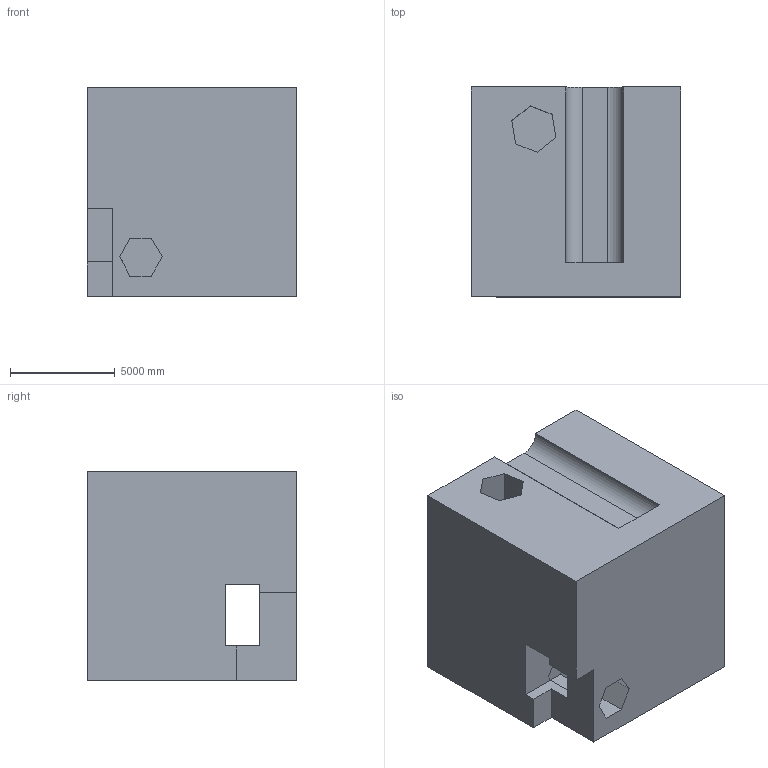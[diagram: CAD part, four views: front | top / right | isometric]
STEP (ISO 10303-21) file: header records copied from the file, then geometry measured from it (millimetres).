
FILE_DESCRIPTION (( 'STEP AP203' ), '1' );
FILE_NAME ('1521.STEP', '2022-08-26T10:23:21', ( 'user' ), ( '' ), 'SwSTEP 2.0', 'SolidWorks 2021', '' );
FILE_SCHEMA (( 'CONFIG_CONTROL_DESIGN' ));
Length unit declared in the file: centimetre
Products named in the file (1): 1521
Bounding box: 10000 x 10000 x 10000 mm (x, y, z)
Volume: 886264116292.5 mm3; surface area: 748111278 mm2
Topology: 1 solids, 1 shells, 39 faces, 114 edges, 76 vertices
Faces by surface type: plane 35, cylinder 4
Entity records: 1361 total; most frequent: CARTESIAN_POINT 230, ORIENTED_EDGE 228, DIRECTION 202, EDGE_CURVE 114, VECTOR 106, LINE 106, VERTEX_POINT 76, AXIS2_PLACEMENT_3D 48
